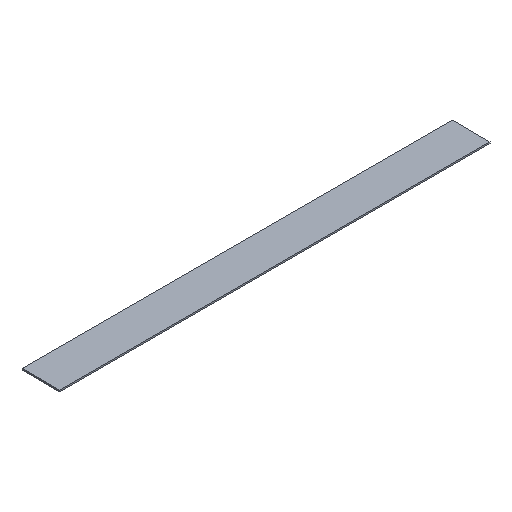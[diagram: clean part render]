
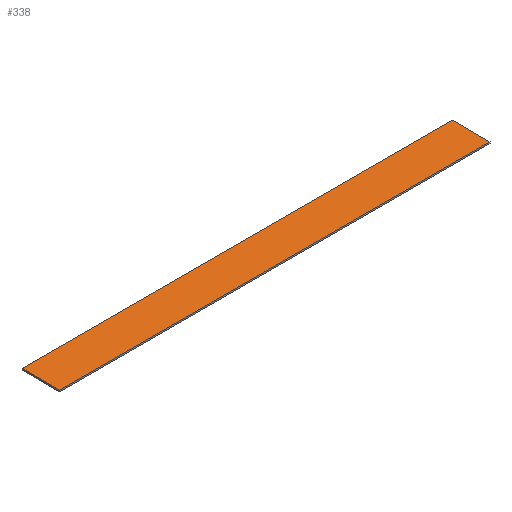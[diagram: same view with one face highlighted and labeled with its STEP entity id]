
A CAD part, isometric view. The second image highlights one B-rep face of the part: STEP entity #338.
In plain terms, the highlighted planar face has unit normal (0, 0, 1).
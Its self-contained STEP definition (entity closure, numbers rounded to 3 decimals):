
#24 = VERTEX_POINT('',#25);
#25 = CARTESIAN_POINT('',(-850.,-75.,6.));
#32 = PLANE('',#33);
#33 = AXIS2_PLACEMENT_3D('',#34,#35,#36);
#34 = CARTESIAN_POINT('',(-850.,-75.,0.));
#35 = DIRECTION('',(0.,1.,0.));
#36 = DIRECTION('',(1.,0.,0.));
#44 = PLANE('',#45);
#45 = AXIS2_PLACEMENT_3D('',#46,#47,#48);
#46 = CARTESIAN_POINT('',(-850.,75.,0.));
#47 = DIRECTION('',(1.,0.,-0.));
#48 = DIRECTION('',(0.,-1.,0.));
#56 = EDGE_CURVE('',#24,#57,#59,.T.);
#57 = VERTEX_POINT('',#58);
#58 = CARTESIAN_POINT('',(850.,-75.,6.));
#59 = SURFACE_CURVE('',#60,(#64,#71),.PCURVE_S1.);
#60 = LINE('',#61,#62);
#61 = CARTESIAN_POINT('',(-850.,-75.,6.));
#62 = VECTOR('',#63,1.);
#63 = DIRECTION('',(1.,0.,0.));
#64 = PCURVE('',#32,#65);
#65 = DEFINITIONAL_REPRESENTATION('',(#66),#70);
#66 = LINE('',#67,#68);
#67 = CARTESIAN_POINT('',(0.,-6.));
#68 = VECTOR('',#69,1.);
#69 = DIRECTION('',(1.,0.));
#70 = ( GEOMETRIC_REPRESENTATION_CONTEXT(2) 
PARAMETRIC_REPRESENTATION_CONTEXT() REPRESENTATION_CONTEXT('2D SPACE',''
  ) );
#71 = PCURVE('',#72,#77);
#72 = PLANE('',#73);
#73 = AXIS2_PLACEMENT_3D('',#74,#75,#76);
#74 = CARTESIAN_POINT('',(0.,0.,6.));
#75 = DIRECTION('',(0.,0.,1.));
#76 = DIRECTION('',(1.,0.,-0.));
#77 = DEFINITIONAL_REPRESENTATION('',(#78),#82);
#78 = LINE('',#79,#80);
#79 = CARTESIAN_POINT('',(-850.,-75.));
#80 = VECTOR('',#81,1.);
#81 = DIRECTION('',(1.,0.));
#82 = ( GEOMETRIC_REPRESENTATION_CONTEXT(2) 
PARAMETRIC_REPRESENTATION_CONTEXT() REPRESENTATION_CONTEXT('2D SPACE',''
  ) );
#100 = PLANE('',#101);
#101 = AXIS2_PLACEMENT_3D('',#102,#103,#104);
#102 = CARTESIAN_POINT('',(850.,-75.,0.));
#103 = DIRECTION('',(-1.,0.,0.));
#104 = DIRECTION('',(0.,1.,0.));
#142 = EDGE_CURVE('',#57,#143,#145,.T.);
#143 = VERTEX_POINT('',#144);
#144 = CARTESIAN_POINT('',(850.,75.,6.));
#145 = SURFACE_CURVE('',#146,(#150,#157),.PCURVE_S1.);
#146 = LINE('',#147,#148);
#147 = CARTESIAN_POINT('',(850.,-75.,6.));
#148 = VECTOR('',#149,1.);
#149 = DIRECTION('',(0.,1.,0.));
#150 = PCURVE('',#100,#151);
#151 = DEFINITIONAL_REPRESENTATION('',(#152),#156);
#152 = LINE('',#153,#154);
#153 = CARTESIAN_POINT('',(0.,-6.));
#154 = VECTOR('',#155,1.);
#155 = DIRECTION('',(1.,0.));
#156 = ( GEOMETRIC_REPRESENTATION_CONTEXT(2) 
PARAMETRIC_REPRESENTATION_CONTEXT() REPRESENTATION_CONTEXT('2D SPACE',''
  ) );
#157 = PCURVE('',#72,#158);
#158 = DEFINITIONAL_REPRESENTATION('',(#159),#163);
#159 = LINE('',#160,#161);
#160 = CARTESIAN_POINT('',(850.,-75.));
#161 = VECTOR('',#162,1.);
#162 = DIRECTION('',(0.,1.));
#163 = ( GEOMETRIC_REPRESENTATION_CONTEXT(2) 
PARAMETRIC_REPRESENTATION_CONTEXT() REPRESENTATION_CONTEXT('2D SPACE',''
  ) );
#181 = PLANE('',#182);
#182 = AXIS2_PLACEMENT_3D('',#183,#184,#185);
#183 = CARTESIAN_POINT('',(850.,75.,0.));
#184 = DIRECTION('',(0.,-1.,0.));
#185 = DIRECTION('',(-1.,0.,0.));
#218 = EDGE_CURVE('',#143,#219,#221,.T.);
#219 = VERTEX_POINT('',#220);
#220 = CARTESIAN_POINT('',(-850.,75.,6.));
#221 = SURFACE_CURVE('',#222,(#226,#233),.PCURVE_S1.);
#222 = LINE('',#223,#224);
#223 = CARTESIAN_POINT('',(850.,75.,6.));
#224 = VECTOR('',#225,1.);
#225 = DIRECTION('',(-1.,0.,0.));
#226 = PCURVE('',#181,#227);
#227 = DEFINITIONAL_REPRESENTATION('',(#228),#232);
#228 = LINE('',#229,#230);
#229 = CARTESIAN_POINT('',(0.,-6.));
#230 = VECTOR('',#231,1.);
#231 = DIRECTION('',(1.,0.));
#232 = ( GEOMETRIC_REPRESENTATION_CONTEXT(2) 
PARAMETRIC_REPRESENTATION_CONTEXT() REPRESENTATION_CONTEXT('2D SPACE',''
  ) );
#233 = PCURVE('',#72,#234);
#234 = DEFINITIONAL_REPRESENTATION('',(#235),#239);
#235 = LINE('',#236,#237);
#236 = CARTESIAN_POINT('',(850.,75.));
#237 = VECTOR('',#238,1.);
#238 = DIRECTION('',(-1.,0.));
#239 = ( GEOMETRIC_REPRESENTATION_CONTEXT(2) 
PARAMETRIC_REPRESENTATION_CONTEXT() REPRESENTATION_CONTEXT('2D SPACE',''
  ) );
#289 = EDGE_CURVE('',#219,#24,#290,.T.);
#290 = SURFACE_CURVE('',#291,(#295,#302),.PCURVE_S1.);
#291 = LINE('',#292,#293);
#292 = CARTESIAN_POINT('',(-850.,75.,6.));
#293 = VECTOR('',#294,1.);
#294 = DIRECTION('',(0.,-1.,0.));
#295 = PCURVE('',#44,#296);
#296 = DEFINITIONAL_REPRESENTATION('',(#297),#301);
#297 = LINE('',#298,#299);
#298 = CARTESIAN_POINT('',(0.,-6.));
#299 = VECTOR('',#300,1.);
#300 = DIRECTION('',(1.,0.));
#301 = ( GEOMETRIC_REPRESENTATION_CONTEXT(2) 
PARAMETRIC_REPRESENTATION_CONTEXT() REPRESENTATION_CONTEXT('2D SPACE',''
  ) );
#302 = PCURVE('',#72,#303);
#303 = DEFINITIONAL_REPRESENTATION('',(#304),#308);
#304 = LINE('',#305,#306);
#305 = CARTESIAN_POINT('',(-850.,75.));
#306 = VECTOR('',#307,1.);
#307 = DIRECTION('',(0.,-1.));
#308 = ( GEOMETRIC_REPRESENTATION_CONTEXT(2) 
PARAMETRIC_REPRESENTATION_CONTEXT() REPRESENTATION_CONTEXT('2D SPACE',''
  ) );
#338 = ADVANCED_FACE('',(#339),#72,.T.);
#339 = FACE_BOUND('',#340,.T.);
#340 = EDGE_LOOP('',(#341,#342,#343,#344));
#341 = ORIENTED_EDGE('',*,*,#56,.T.);
#342 = ORIENTED_EDGE('',*,*,#142,.T.);
#343 = ORIENTED_EDGE('',*,*,#218,.T.);
#344 = ORIENTED_EDGE('',*,*,#289,.T.);
